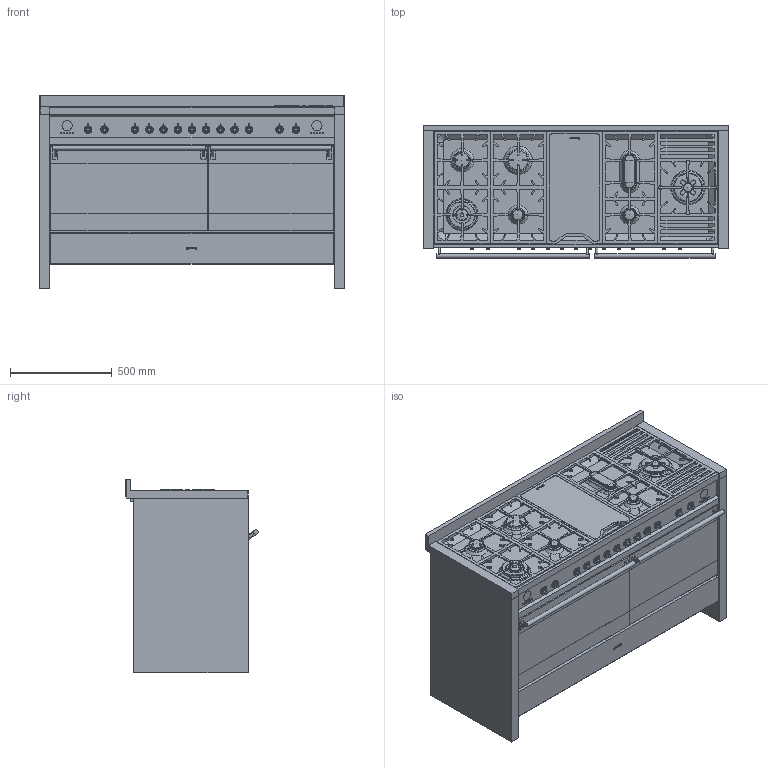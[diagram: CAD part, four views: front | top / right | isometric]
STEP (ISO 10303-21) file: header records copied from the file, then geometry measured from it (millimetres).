
FILE_DESCRIPTION(/* description */ (''),/* implementation_level */ '2;1');
FILE_NAME(/* name */ 'a5-8.stp',/* time_stamp */ '2012-07-10T10:52:17+02:00',/* author */ (''),/* organization */ (''),/* preprocessor_version */ 'ST-DEVELOPER v11',/* originating_system */ 'SIEMENS PLM Software NX 7.5',/* authorisation */ '');
FILE_SCHEMA (('AUTOMOTIVE_DESIGN { 1 0 10303 214 1 1 1 1 }'));
Products named in the file (1): FIOR3D40xmn3
Bounding box: 1498 x 651 x 951.1 mm (x, y, z)
Volume: 93825990.9 mm3; surface area: 10472577.8 mm2
Topology: 74 solids, 74 shells, 1898 faces, 4893 edges, 3208 vertices
Faces by surface type: plane 1030, extrusion 319, cylinder 258, cone 122, torus 106, bspline 52, revolution 7, sphere 4
Full cylindrical faces by diameter (mm): 4.3 x2, 4.363 x4, 4.608 x6, 6 x20, 14.996 x13, 17 x13, 22 x15, 41.926 x1, 44.881 x1, 50 x4, 55 x2, 60.611 x1, 65.5 x2, 75 x1, 85.5 x1, 85.7 x1, 100 x1, 110.5 x1, 131 x1, 147 x1, 162 x1
Entity records: 64595 total; most frequent: CARTESIAN_POINT 19305, ORIENTED_EDGE 9194, DIRECTION 8523, EDGE_CURVE 4597, VECTOR 3204, VERTEX_POINT 3173, LINE 2885, AXIS2_PLACEMENT_3D 2656
